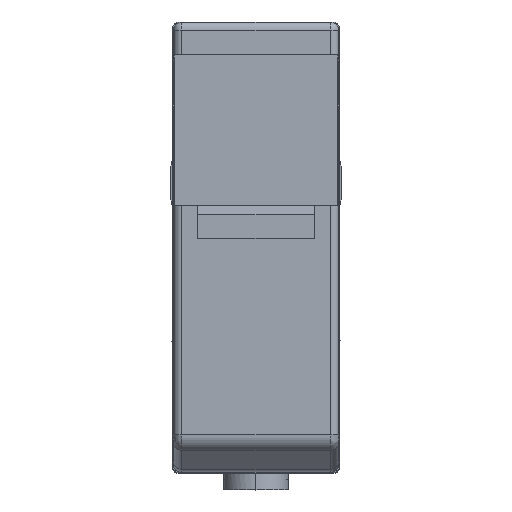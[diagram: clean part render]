
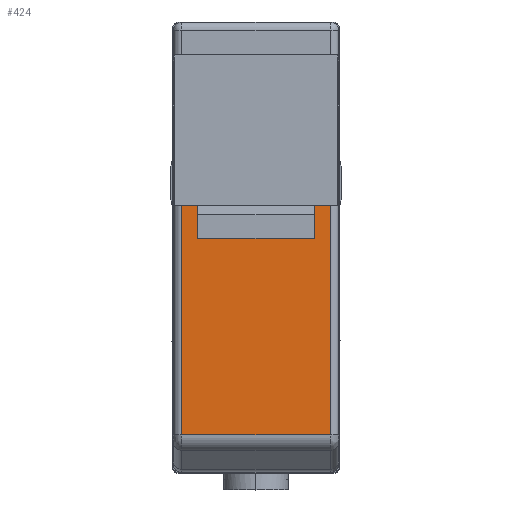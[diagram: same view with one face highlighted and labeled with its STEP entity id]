
A CAD part, top view. The second image highlights one B-rep face of the part: STEP entity #424.
In plain terms, the highlighted planar face has unit normal (0, 0, 1).
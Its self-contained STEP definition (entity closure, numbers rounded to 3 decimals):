
#424=ADVANCED_FACE('',(#1852),#1851,.F.);
#1851=PLANE('',#4196);
#1852=FACE_OUTER_BOUND('',#4197,.T.);
#4193=CARTESIAN_POINT('',(5.34,-26.283,27.4));
#4194=DIRECTION('',(0.,0.,-1.));
#4195=DIRECTION('',(-1.,0.,0.));
#4196=AXIS2_PLACEMENT_3D('',#4193,#4194,#4195);
#4197=EDGE_LOOP('',(#5709,#5710,#5711,#5712,#5713,#5714,#5715,#5716));
#5709=ORIENTED_EDGE('',*,*,#6832,.F.);
#5710=ORIENTED_EDGE('',*,*,#6839,.T.);
#5711=ORIENTED_EDGE('',*,*,#6840,.T.);
#5712=ORIENTED_EDGE('',*,*,#6841,.T.);
#5713=ORIENTED_EDGE('',*,*,#6824,.F.);
#5714=ORIENTED_EDGE('',*,*,#6760,.F.);
#5715=ORIENTED_EDGE('',*,*,#6769,.F.);
#5716=ORIENTED_EDGE('',*,*,#6762,.T.);
#6760=EDGE_CURVE('',#8964,#8949,#8971,.T.);
#6762=EDGE_CURVE('',#8985,#8978,#8986,.T.);
#6769=EDGE_CURVE('',#8985,#8964,#9031,.T.);
#6824=EDGE_CURVE('',#8949,#9401,#9402,.T.);
#6832=EDGE_CURVE('',#9448,#8978,#9455,.T.);
#6839=EDGE_CURVE('',#9448,#9501,#9502,.T.);
#6840=EDGE_CURVE('',#9501,#9508,#9509,.T.);
#6841=EDGE_CURVE('',#9508,#9401,#9515,.T.);
#8949=VERTEX_POINT('',#12989);
#8964=VERTEX_POINT('',#12998);
#8971=LINE('',#13002,#13003);
#8978=VERTEX_POINT('',#13006);
#8985=VERTEX_POINT('',#13010);
#8986=LINE('',#13011,#13012);
#9031=LINE('',#13035,#13036);
#9401=VERTEX_POINT('',#13244);
#9402=LINE('',#13245,#13246);
#9448=VERTEX_POINT('',#13271);
#9455=LINE('',#13276,#13277);
#9501=VERTEX_POINT('',#13301);
#9502=LINE('',#13302,#13303);
#9508=VERTEX_POINT('',#13305);
#9509=LINE('',#13306,#13307);
#9515=LINE('',#13309,#13310);
#12989=CARTESIAN_POINT('',(4.,-11.,27.4));
#12998=CARTESIAN_POINT('',(4.,-9.5,27.4));
#13002=CARTESIAN_POINT('',(4.,-9.5,27.4));
#13003=VECTOR('',#13004,1.5);
#13004=DIRECTION('',(0.,-1.,0.));
#13006=CARTESIAN_POINT('',(-4.,-11.,27.4));
#13010=CARTESIAN_POINT('',(-4.,-9.5,27.4));
#13011=CARTESIAN_POINT('',(-4.,-9.5,27.4));
#13012=VECTOR('',#13013,1.5);
#13013=DIRECTION('',(0.,-1.,0.));
#13035=CARTESIAN_POINT('',(-4.,-9.5,27.4));
#13036=VECTOR('',#13037,8.);
#13037=DIRECTION('',(1.,0.,0.));
#13244=CARTESIAN_POINT('',(4.45,-11.,27.4));
#13245=CARTESIAN_POINT('',(4.,-11.,27.4));
#13246=VECTOR('',#13247,0.45);
#13247=DIRECTION('',(1.,0.,0.));
#13271=CARTESIAN_POINT('',(-4.45,-11.,27.4));
#13276=CARTESIAN_POINT('',(-4.45,-11.,27.4));
#13277=VECTOR('',#13278,0.45);
#13278=DIRECTION('',(1.,0.,0.));
#13301=CARTESIAN_POINT('',(-4.45,-24.758,27.4));
#13302=CARTESIAN_POINT('',(-4.45,-11.,27.4));
#13303=VECTOR('',#13304,13.758);
#13304=DIRECTION('',(0.,-1.,0.));
#13305=CARTESIAN_POINT('',(4.45,-24.758,27.4));
#13306=CARTESIAN_POINT('',(-4.45,-24.758,27.4));
#13307=VECTOR('',#13308,8.9);
#13308=DIRECTION('',(1.,0.,0.));
#13309=CARTESIAN_POINT('',(4.45,-24.758,27.4));
#13310=VECTOR('',#13311,13.758);
#13311=DIRECTION('',(0.,1.,0.));
